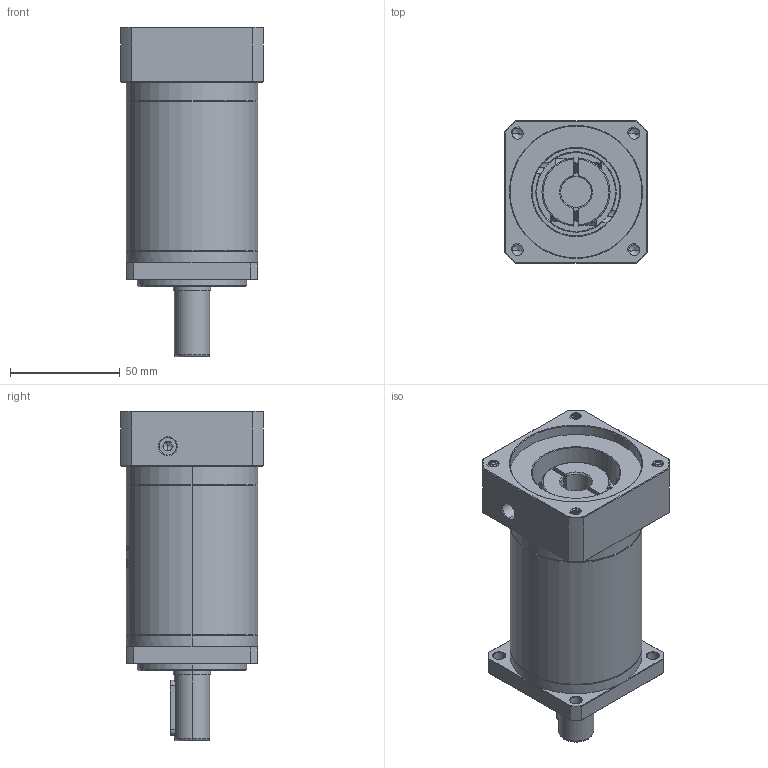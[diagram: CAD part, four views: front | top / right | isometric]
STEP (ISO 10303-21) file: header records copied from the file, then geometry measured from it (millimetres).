
FILE_DESCRIPTION (( 'STEP AP214' ), '1' );
FILE_NAME ('ZF060-D16-L3-P2-14-60-75-M6.step', '2023-08-16T04:28:53', ( '' ), ( '' ), 'SwSTEP 2.0', 'SolidWorks 2016', '' );
FILE_SCHEMA (( 'AUTOMOTIVE_DESIGN' ));
Length unit declared in the file: millimetre
Products named in the file (1): ZF060-D16-L3-P2-14-60-75-M6
Bounding box: 65 x 65 x 150 mm (x, y, z)
Volume: 333502.2 mm3; surface area: 53819.9 mm2
Topology: 6 solids, 6 shells, 1775 faces, 4796 edges, 3105 vertices
Faces by surface type: plane 799, cylinder 368, bspline 354, cone 236, torus 18
Entity records: 101696 total; most frequent: CARTESIAN_POINT 41857, ORIENTED_EDGE 9564, DIRECTION 6858, EDGE_CURVE 4782, VERTEX_POINT 3105, LINE 2432, VECTOR 2432, AXIS2_PLACEMENT_3D 2213
